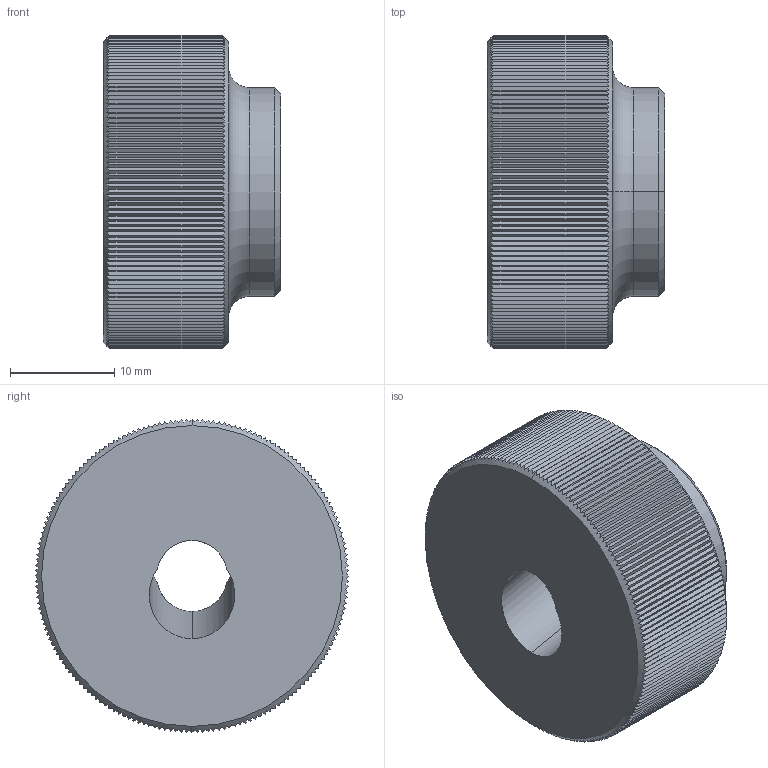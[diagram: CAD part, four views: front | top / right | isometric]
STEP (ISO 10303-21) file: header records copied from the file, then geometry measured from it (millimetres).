
FILE_DESCRIPTION (( 'STEP AP203' ), '1' );
FILE_NAME ('3736.W008.step', '2009-12-09T21:50:16', ( 'Wixroyd' ), ( 'Wixroyd' ), 'SwSTEP 2.0', 'SolidWorks 2009', '' );
FILE_SCHEMA (( 'CONFIG_CONTROL_DESIGN' ));
Length unit declared in the file: millimetre
Products named in the file (1): 3736.W008
Bounding box: 17 x 30 x 30 mm (x, y, z)
Volume: 8994.4 mm3; surface area: 3427.3 mm2
Topology: 1 solids, 1 shells, 378 faces, 1116 edges, 741 vertices
Faces by surface type: plane 363, cylinder 7, cone 6, torus 2
Entity records: 13226 total; most frequent: CARTESIAN_POINT 4496, ORIENTED_EDGE 2232, DIRECTION 1163, EDGE_CURVE 1116, VERTEX_POINT 741, B_SPLINE_CURVE_WITH_KNOTS 724, AXIS2_PLACEMENT_3D 396, EDGE_LOOP 381
